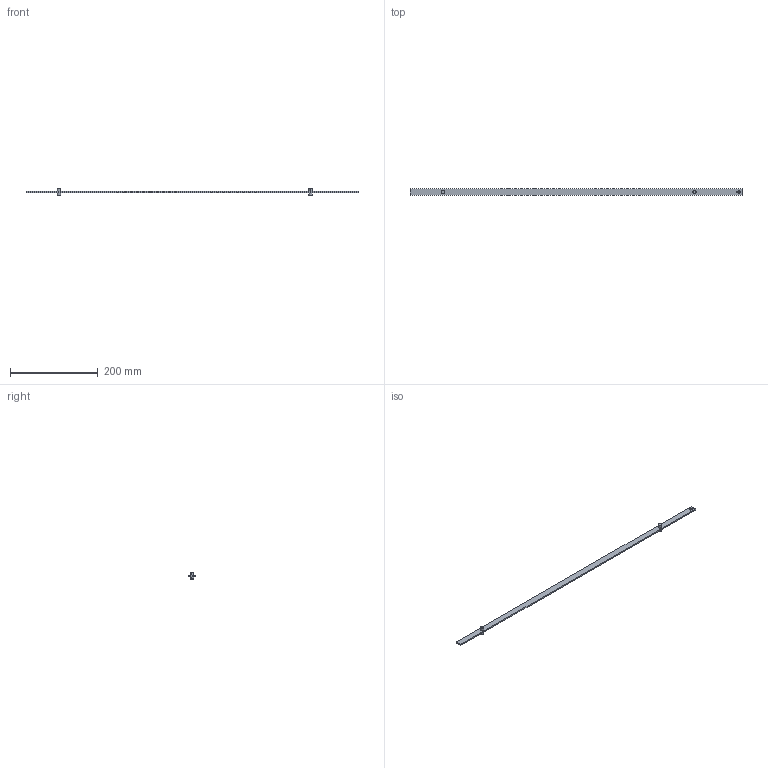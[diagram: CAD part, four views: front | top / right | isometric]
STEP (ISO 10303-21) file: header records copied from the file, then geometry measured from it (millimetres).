
FILE_DESCRIPTION (( 'STEP AP214' ), '1' );
FILE_NAME ('PP28-751.STEP', '2016-09-08T07:57:11', ( '' ), ( '' ), 'SwSTEP 2.0', 'SolidWorks 2015', '' );
FILE_SCHEMA (( 'AUTOMOTIVE_DESIGN' ));
Length unit declared in the file: millimetre
Products named in the file (4): 1C.PDB.02.02.00_A; 1C.PDB.02.01.00_A; 1C.PD.B.Z.X.Y.01_PP28-751; PP28-751
Assembly tree (5 placements, depth 2):
  PP28-751
    1C.PD.B.Z.X.Y.01_PP28-751
    1C.PDB.02.01.00_A  x2
    1C.PDB.02.02.00_A  x2
Bounding box: 758.5 x 14 x 18.1 mm (x, y, z)
Volume: 33238.9 mm3; surface area: 27450.6 mm2
Topology: 5 solids, 5 shells, 78 faces, 168 edges, 102 vertices
Faces by surface type: cylinder 30, plane 24, cone 24
Entity records: 1514 total; most frequent: DIRECTION 264, CARTESIAN_POINT 229, ORIENTED_EDGE 212, EDGE_CURVE 106, AXIS2_PLACEMENT_3D 102, VERTEX_POINT 67, VECTOR 60, LINE 60
